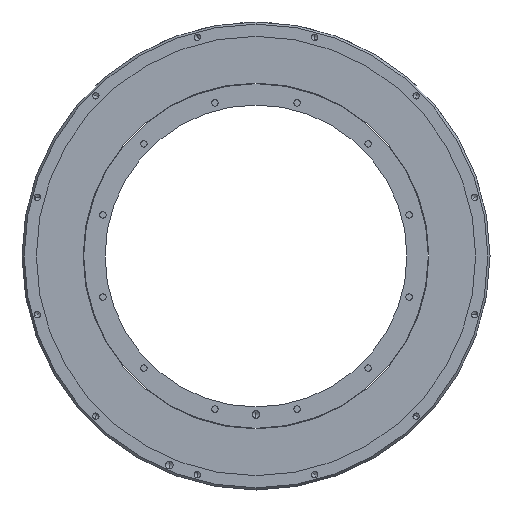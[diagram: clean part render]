
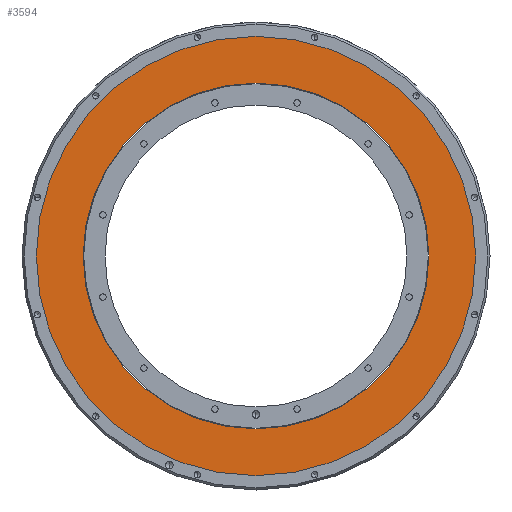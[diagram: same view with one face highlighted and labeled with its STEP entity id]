
A CAD part, front view. The second image highlights one B-rep face of the part: STEP entity #3594.
In plain terms, the highlighted planar face has unit normal (0, -1, 0).
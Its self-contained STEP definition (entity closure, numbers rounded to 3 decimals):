
#36 = CIRCLE ( 'NONE', #46, 114.5 ) ;
#46 = AXIS2_PLACEMENT_3D ( 'NONE', #3678, #5230, #6287 ) ;
#154 = EDGE_LOOP ( 'NONE', ( #5465, #3043 ) ) ;
#211 = PLANE ( 'NONE',  #1602 ) ;
#671 = ORIENTED_EDGE ( 'NONE', *, *, #6266, .F. ) ;
#721 = CARTESIAN_POINT ( 'NONE',  ( 114.5, 1., 0. ) ) ;
#784 = DIRECTION ( 'NONE',  ( 0., 0., -1. ) ) ;
#1065 = FACE_OUTER_BOUND ( 'NONE', #154, .T. ) ;
#1237 = CARTESIAN_POINT ( 'NONE',  ( 0., 1., 114.5 ) ) ;
#1398 = ORIENTED_EDGE ( 'NONE', *, *, #2315, .F. ) ;
#1602 = AXIS2_PLACEMENT_3D ( 'NONE', #721, #4493, #784 ) ;
#1744 = CARTESIAN_POINT ( 'NONE',  ( 0., 1., 0. ) ) ;
#1822 = AXIS2_PLACEMENT_3D ( 'NONE', #3041, #3510, #6767 ) ;
#2135 = EDGE_LOOP ( 'NONE', ( #1398, #671 ) ) ;
#2180 = FACE_BOUND ( 'NONE', #2135, .T. ) ;
#2275 = CARTESIAN_POINT ( 'NONE',  ( 0., 1., -145.5 ) ) ;
#2315 = EDGE_CURVE ( 'NONE', #6880, #3591, #6784, .T. ) ;
#2514 = CARTESIAN_POINT ( 'NONE',  ( 0., 1., -114.5 ) ) ;
#2583 = CARTESIAN_POINT ( 'NONE',  ( 0., 1., 145.5 ) ) ;
#2841 = VERTEX_POINT ( 'NONE', #2275 ) ;
#2906 = CARTESIAN_POINT ( 'NONE',  ( 0., 1., 0. ) ) ;
#3041 = CARTESIAN_POINT ( 'NONE',  ( 0., 1., 0. ) ) ;
#3043 = ORIENTED_EDGE ( 'NONE', *, *, #6082, .T. ) ;
#3071 = AXIS2_PLACEMENT_3D ( 'NONE', #2906, #3961, #6669 ) ;
#3510 = DIRECTION ( 'NONE',  ( 0., -1., 0. ) ) ;
#3591 = VERTEX_POINT ( 'NONE', #1237 ) ;
#3594 = ADVANCED_FACE ( 'NONE', ( #1065, #2180 ), #211, .T. ) ;
#3678 = CARTESIAN_POINT ( 'NONE',  ( 0., 1., 0. ) ) ;
#3961 = DIRECTION ( 'NONE',  ( 0., -1., 0. ) ) ;
#4493 = DIRECTION ( 'NONE',  ( 0., -1., 0. ) ) ;
#4504 = AXIS2_PLACEMENT_3D ( 'NONE', #1744, #5521, #5036 ) ;
#4744 = CIRCLE ( 'NONE', #3071, 145.5 ) ;
#5002 = CIRCLE ( 'NONE', #4504, 145.5 ) ;
#5036 = DIRECTION ( 'NONE',  ( 0., 0., -1. ) ) ;
#5230 = DIRECTION ( 'NONE',  ( 0., -1., 0. ) ) ;
#5465 = ORIENTED_EDGE ( 'NONE', *, *, #6052, .T. ) ;
#5521 = DIRECTION ( 'NONE',  ( 0., -1., 0. ) ) ;
#6052 = EDGE_CURVE ( 'NONE', #2841, #6962, #5002, .T. ) ;
#6082 = EDGE_CURVE ( 'NONE', #6962, #2841, #4744, .T. ) ;
#6266 = EDGE_CURVE ( 'NONE', #3591, #6880, #36, .T. ) ;
#6287 = DIRECTION ( 'NONE',  ( 0., 0., -1. ) ) ;
#6669 = DIRECTION ( 'NONE',  ( 0., 0., -1. ) ) ;
#6767 = DIRECTION ( 'NONE',  ( 0., 0., -1. ) ) ;
#6784 = CIRCLE ( 'NONE', #1822, 114.5 ) ;
#6880 = VERTEX_POINT ( 'NONE', #2514 ) ;
#6962 = VERTEX_POINT ( 'NONE', #2583 ) ;
